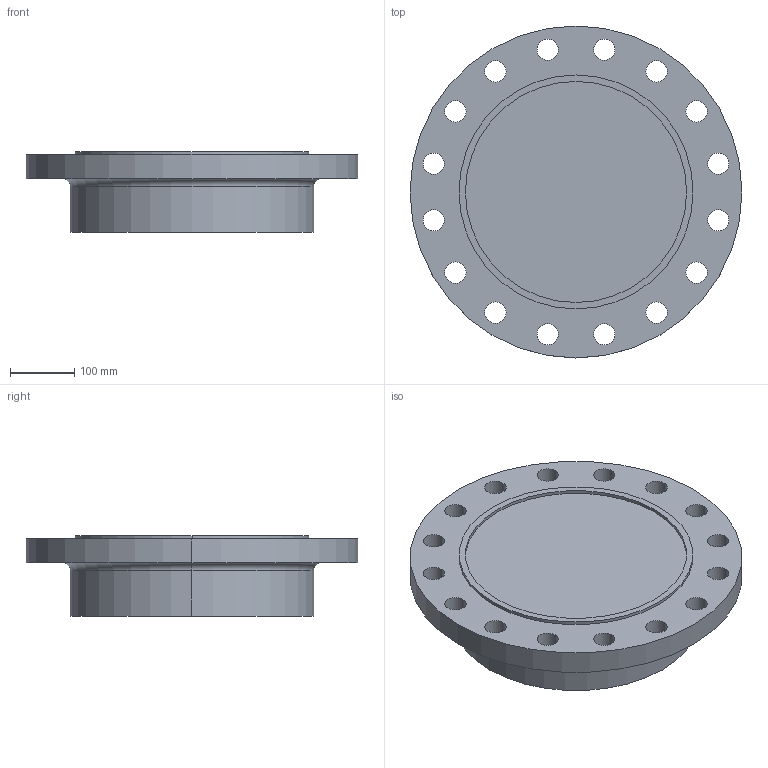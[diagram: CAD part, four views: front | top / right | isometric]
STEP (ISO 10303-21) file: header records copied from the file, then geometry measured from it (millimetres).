
FILE_DESCRIPTION (( 'STEP AP214' ), '1' );
FILE_NAME ('PN40 DN300 Type 21(i) - Type C Face.STEP', '2019-01-05T20:17:27', ( '' ), ( '' ), 'SwSTEP 2.0', 'SolidWorks 2019', '' );
FILE_SCHEMA (( 'AUTOMOTIVE_DESIGN' ));
Length unit declared in the file: millimetre
Products named in the file (1): PN40 DN300 Type 21(i) - Type C Face
Bounding box: 515 x 515 x 125 mm (x, y, z)
Volume: 16608026.8 mm3; surface area: 614084 mm2
Topology: 1 solids, 1 shells, 47 faces, 124 edges, 82 vertices
Faces by surface type: cylinder 40, plane 5, torus 2
Entity records: 1604 total; most frequent: DIRECTION 304, CARTESIAN_POINT 254, ORIENTED_EDGE 248, AXIS2_PLACEMENT_3D 132, EDGE_CURVE 124, CIRCLE 84, EDGE_LOOP 82, VERTEX_POINT 82
